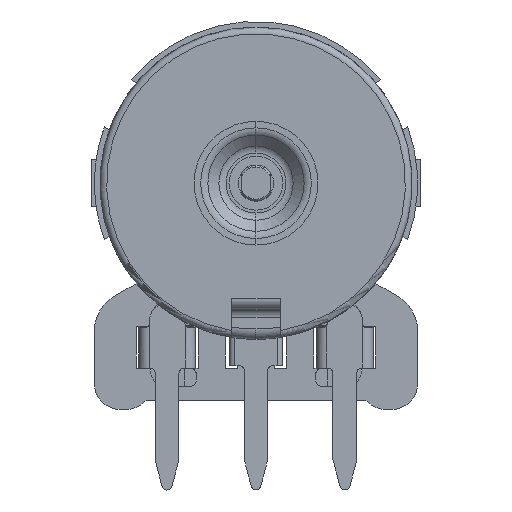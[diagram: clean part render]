
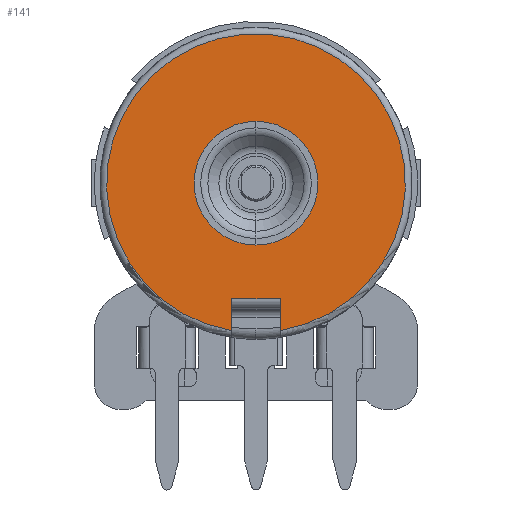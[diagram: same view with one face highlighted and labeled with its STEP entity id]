
A CAD part, front view. The second image highlights one B-rep face of the part: STEP entity #141.
In plain terms, the highlighted planar face has unit normal (0, -1, 0).
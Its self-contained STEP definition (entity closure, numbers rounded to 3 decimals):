
#133 = ORIENTED_EDGE ( 'NONE', *, *, #16409, .F. ) ;
#141 = ADVANCED_FACE ( 'NONE', ( #1006, #7381 ), #6124, .F. ) ;
#791 = CARTESIAN_POINT ( 'NONE',  ( -1.194, -0.194, -5.695 ) ) ;
#1006 = FACE_BOUND ( 'NONE', #20209, .T. ) ;
#1278 = CARTESIAN_POINT ( 'NONE',  ( 0., -0.194, 0. ) ) ;
#1688 = VECTOR ( 'NONE', #2346, 1000. ) ;
#1889 = EDGE_CURVE ( 'NONE', #4331, #17245, #9084, .T. ) ;
#2075 = VERTEX_POINT ( 'NONE', #4441 ) ;
#2346 = DIRECTION ( 'NONE',  ( 0., 0., -1. ) ) ;
#2936 = VERTEX_POINT ( 'NONE', #791 ) ;
#2955 = DIRECTION ( 'NONE',  ( 0., -1., 0. ) ) ;
#3168 = ORIENTED_EDGE ( 'NONE', *, *, #1889, .F. ) ;
#3616 = VECTOR ( 'NONE', #12323, 1000. ) ;
#3736 = VERTEX_POINT ( 'NONE', #16595 ) ;
#4182 = CARTESIAN_POINT ( 'NONE',  ( 0., -0.194, 0. ) ) ;
#4331 = VERTEX_POINT ( 'NONE', #6687 ) ;
#4441 = CARTESIAN_POINT ( 'NONE',  ( 1.194, -0.194, -5.695 ) ) ;
#5494 = AXIS2_PLACEMENT_3D ( 'NONE', #1278, #2955, #9334 ) ;
#6124 = PLANE ( 'NONE',  #16576 ) ;
#6480 = CARTESIAN_POINT ( 'NONE',  ( -3.044, -0.194, -5.695 ) ) ;
#6687 = CARTESIAN_POINT ( 'NONE',  ( 0., -0.194, 3.044 ) ) ;
#6990 = VERTEX_POINT ( 'NONE', #13320 ) ;
#7067 = AXIS2_PLACEMENT_3D ( 'NONE', #4182, #20254, #9109 ) ;
#7381 = FACE_OUTER_BOUND ( 'NONE', #18242, .T. ) ;
#7459 = ORIENTED_EDGE ( 'NONE', *, *, #14929, .F. ) ;
#8251 = ORIENTED_EDGE ( 'NONE', *, *, #9598, .T. ) ;
#8291 = ORIENTED_EDGE ( 'NONE', *, *, #18625, .T. ) ;
#8617 = CARTESIAN_POINT ( 'NONE',  ( 1.194, -0.194, 0. ) ) ;
#8983 = LINE ( 'NONE', #13685, #3616 ) ;
#9084 = CIRCLE ( 'NONE', #7067, 3.044 ) ;
#9109 = DIRECTION ( 'NONE',  ( 0., 0., -1. ) ) ;
#9334 = DIRECTION ( 'NONE',  ( 0., 0., -1. ) ) ;
#9598 = EDGE_CURVE ( 'NONE', #2075, #3736, #13327, .T. ) ;
#9673 = ORIENTED_EDGE ( 'NONE', *, *, #14808, .T. ) ;
#10462 = CARTESIAN_POINT ( 'NONE',  ( 0., -0.194, 0. ) ) ;
#10737 = VECTOR ( 'NONE', #12575, 1000. ) ;
#11822 = DIRECTION ( 'NONE',  ( 0., -1., 0. ) ) ;
#12323 = DIRECTION ( 'NONE',  ( 0., 0., -1. ) ) ;
#12575 = DIRECTION ( 'NONE',  ( 1., 0., 0. ) ) ;
#13187 = CIRCLE ( 'NONE', #5494, 3.044 ) ;
#13320 = CARTESIAN_POINT ( 'NONE',  ( -1.194, -0.194, -7.249 ) ) ;
#13327 = LINE ( 'NONE', #8617, #1688 ) ;
#13615 = CARTESIAN_POINT ( 'NONE',  ( 0., -0.194, -3.044 ) ) ;
#13685 = CARTESIAN_POINT ( 'NONE',  ( -1.194, -0.194, -6.203 ) ) ;
#13771 = CARTESIAN_POINT ( 'NONE',  ( -3.044, -0.194, 0. ) ) ;
#14808 = EDGE_CURVE ( 'NONE', #3736, #6990, #15596, .T. ) ;
#14929 = EDGE_CURVE ( 'NONE', #2936, #6990, #8983, .T. ) ;
#15596 = CIRCLE ( 'NONE', #18258, 7.347 ) ;
#16409 = EDGE_CURVE ( 'NONE', #17245, #4331, #13187, .T. ) ;
#16576 = AXIS2_PLACEMENT_3D ( 'NONE', #13771, #18641, #20116 ) ;
#16595 = CARTESIAN_POINT ( 'NONE',  ( 1.194, -0.194, -7.249 ) ) ;
#17245 = VERTEX_POINT ( 'NONE', #13615 ) ;
#17949 = DIRECTION ( 'NONE',  ( 0., 0., -1. ) ) ;
#18242 = EDGE_LOOP ( 'NONE', ( #7459, #8291, #8251, #9673 ) ) ;
#18258 = AXIS2_PLACEMENT_3D ( 'NONE', #10462, #11822, #17949 ) ;
#18625 = EDGE_CURVE ( 'NONE', #2936, #2075, #20582, .T. ) ;
#18641 = DIRECTION ( 'NONE',  ( 0., 1., 0. ) ) ;
#20116 = DIRECTION ( 'NONE',  ( 0., 0., 1. ) ) ;
#20209 = EDGE_LOOP ( 'NONE', ( #133, #3168 ) ) ;
#20254 = DIRECTION ( 'NONE',  ( 0., -1., 0. ) ) ;
#20582 = LINE ( 'NONE', #6480, #10737 ) ;
